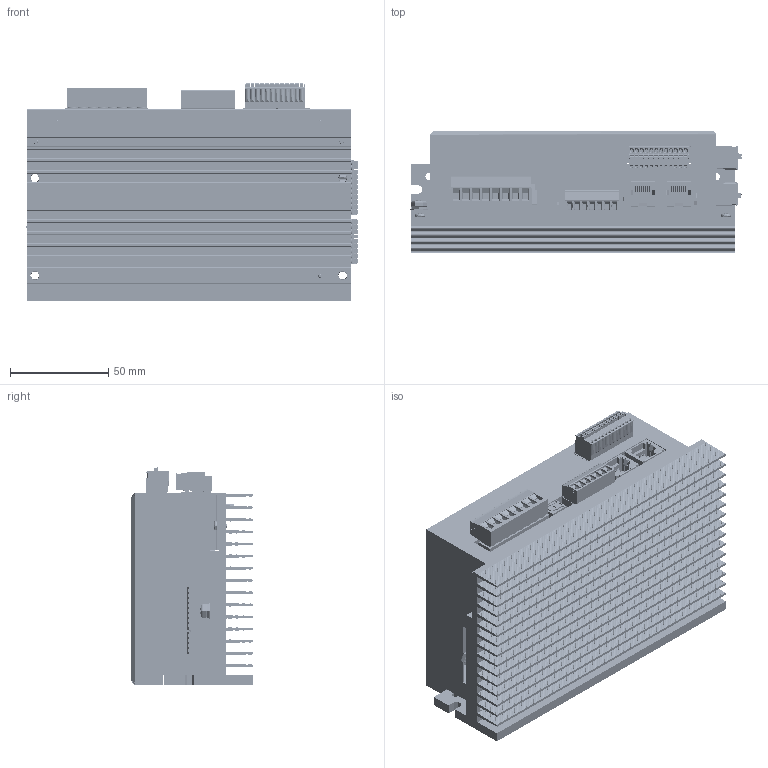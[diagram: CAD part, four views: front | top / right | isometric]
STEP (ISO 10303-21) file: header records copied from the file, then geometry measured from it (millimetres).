
FILE_DESCRIPTION((''),'2;1');
FILE_NAME('SW1D4080N3B1-00_ASM','2011-11-21T',('Renato Bisson'),(''),'PRO/ENGINEER BY PARAMETRIC TECHNOLOGY CORPORATION, 2006320','PRO/ENGINEER BY PARAMETRIC TECHNOLOGY CORPORATION, 2006320','');
FILE_SCHEMA(('CONFIG_CONTROL_DESIGN'));
Products named in the file (44): RA00742; AD-00744-00; DIST_MF_M2E5X5; PB-DMD00-00; 1757307; 1757077; SMD_4-DIPSWITCH_RIGTH_ANGLE; SMD_8-DIPSWITCH_RIGTH_ANGLE; CE_16X25_P7E62; WPW05VIS-00; 1803329; 1881516; 1881464; SMD_COND_ELETTROL_6E3X6E3; SMD_COND_ELETTROL_8X10E5; LHWPW05-00; TO263AB; C-1241050-04-3-A7; 1803620; 1881341; 1881396; LS7MH-5X20-V; CP8E5X26E5P22E5; 901220762; C-5555153-01-B-3D; JUMPER; DMD00-V02_ASM; PB-DMX00-00; 1881545; 1881422; 1881532; 1881419; C-08-X_-06_ANY; SSW-XX-D_FORMULA_ANY; SSW-110-01-X-D_ANY_ASM; DMX00-V03_ASM; TCC_M2E5X05; DIST_MF_M2E5X30; M3X18_SVASATA_CROCE; MC-00768-00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
Assembly tree (88 placements, depth 4):
  SW1D4080N3B1-00_ASM
    RA00742
    AD-00744-00
    DIST_MF_M2E5X5  x2
    DMD00-V02_ASM
      PB-DMD00-00
      1757307
      1757077
      SMD_4-DIPSWITCH_RIGTH_ANGLE
      SMD_8-DIPSWITCH_RIGTH_ANGLE
      CE_16X25_P7E62
      WPW05VIS-00
      1803329
      1881516
      1881464
      SMD_COND_ELETTROL_6E3X6E3
      SMD_COND_ELETTROL_8X10E5  x2
      LHWPW05-00
      TO263AB  x8
      C-1241050-04-3-A7
      1803620
      1881341
      1881396
      LS7MH-5X20-V
      CP8E5X26E5P22E5  x2
      901220762
      C-5555153-01-B-3D  x2
      JUMPER  x4
    DMX00-V03_ASM
      PB-DMX00-00
      1881516
      1881396
      1881545
      1881422
      1881532
      1881419
      SSW-110-01-X-D_ANY_ASM
        C-08-X_-06_ANY  x20
        SSW-XX-D_FORMULA_ANY
    TCC_M2E5X05  x9
    DIST_MF_M2E5X30  x3
    M3X18_SVASATA_CROCE
    MC-00768-00
    MAR-PN4
    MAR_SN4
    TCC_M4X08
Bounding box: 169.31 x 62.3 x 110.76 mm (x, y, z)
Topology: 84 solids, 100 shells, 16334 faces, 43902 edges, 28629 vertices
Faces by surface type: plane 12094, cylinder 3653, cone 298, sphere 120, torus 106, bspline 63
Entity records: 434529 total; most frequent: CARTESIAN_POINT 95799, ORIENTED_EDGE 71516, DIRECTION 67952, EDGE_CURVE 35792, VECTOR 28430, LINE 28430, VERTEX_POINT 23308, AXIS2_PLACEMENT_3D 19761
